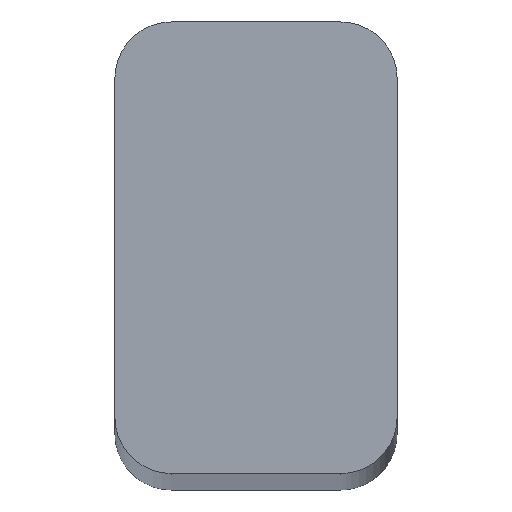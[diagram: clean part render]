
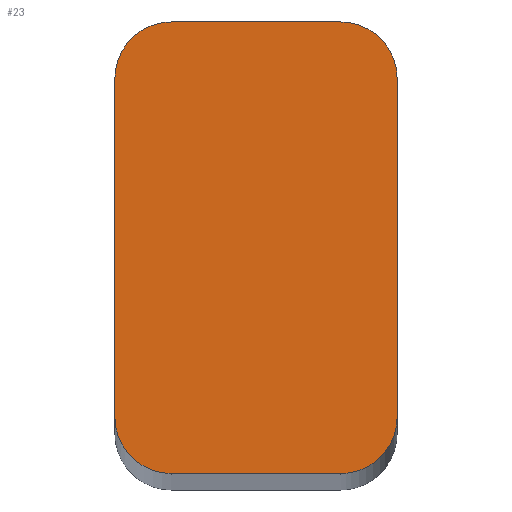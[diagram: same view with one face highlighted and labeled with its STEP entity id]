
A CAD part, top view. The second image highlights one B-rep face of the part: STEP entity #23.
In plain terms, the highlighted planar face has unit normal (0, 0, 1).
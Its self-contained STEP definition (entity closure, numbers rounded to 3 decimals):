
#23=ADVANCED_FACE('',(#33),#161,.T.);
#33=FACE_OUTER_BOUND('',#43,.T.);
#43=EDGE_LOOP('',(#77,#78,#79,#80,#81,#82,#83,#84));
#77=ORIENTED_EDGE('',*,*,#115,.F.);
#78=ORIENTED_EDGE('',*,*,#112,.F.);
#79=ORIENTED_EDGE('',*,*,#109,.F.);
#80=ORIENTED_EDGE('',*,*,#106,.F.);
#81=ORIENTED_EDGE('',*,*,#103,.F.);
#82=ORIENTED_EDGE('',*,*,#100,.F.);
#83=ORIENTED_EDGE('',*,*,#97,.F.);
#84=ORIENTED_EDGE('',*,*,#93,.F.);
#93=EDGE_CURVE('',#141,#142,#128,.T.);
#97=EDGE_CURVE('',#142,#145,#117,.T.);
#100=EDGE_CURVE('',#145,#147,#132,.T.);
#103=EDGE_CURVE('',#147,#149,#120,.T.);
#106=EDGE_CURVE('',#149,#151,#135,.T.);
#109=EDGE_CURVE('',#151,#153,#123,.T.);
#112=EDGE_CURVE('',#153,#155,#138,.T.);
#115=EDGE_CURVE('',#155,#141,#126,.T.);
#117=B_SPLINE_CURVE_WITH_KNOTS('',1,(#249,#250),.UNSPECIFIED.,.F.,.F.,(2,
2),(1.571,7.571),.UNSPECIFIED.);
#120=B_SPLINE_CURVE_WITH_KNOTS('',1,(#263,#264),.UNSPECIFIED.,.F.,.F.,(2,
2),(9.142,12.142),.UNSPECIFIED.);
#123=B_SPLINE_CURVE_WITH_KNOTS('',1,(#277,#278),.UNSPECIFIED.,.F.,.F.,(2,
2),(13.712,19.712),.UNSPECIFIED.);
#126=B_SPLINE_CURVE_WITH_KNOTS('',1,(#291,#292),.UNSPECIFIED.,.F.,.F.,(2,
2),(21.283,24.283),.UNSPECIFIED.);
#128=(
BOUNDED_CURVE()
B_SPLINE_CURVE(2,(#239,#240,#241),.UNSPECIFIED.,.F.,.F.)
B_SPLINE_CURVE_WITH_KNOTS((3,3),(0.,1.571),.UNSPECIFIED.)
CURVE()
GEOMETRIC_REPRESENTATION_ITEM()
RATIONAL_B_SPLINE_CURVE((1.,0.707,1.))
REPRESENTATION_ITEM('')
);
#132=(
BOUNDED_CURVE()
B_SPLINE_CURVE(2,(#255,#256,#257),.UNSPECIFIED.,.F.,.F.)
B_SPLINE_CURVE_WITH_KNOTS((3,3),(7.571,9.142),
 .UNSPECIFIED.)
CURVE()
GEOMETRIC_REPRESENTATION_ITEM()
RATIONAL_B_SPLINE_CURVE((1.,0.707,1.))
REPRESENTATION_ITEM('')
);
#135=(
BOUNDED_CURVE()
B_SPLINE_CURVE(2,(#269,#270,#271),.UNSPECIFIED.,.F.,.F.)
B_SPLINE_CURVE_WITH_KNOTS((3,3),(12.142,13.712),
 .UNSPECIFIED.)
CURVE()
GEOMETRIC_REPRESENTATION_ITEM()
RATIONAL_B_SPLINE_CURVE((1.,0.707,1.))
REPRESENTATION_ITEM('')
);
#138=(
BOUNDED_CURVE()
B_SPLINE_CURVE(2,(#283,#284,#285),.UNSPECIFIED.,.F.,.F.)
B_SPLINE_CURVE_WITH_KNOTS((3,3),(19.712,21.283),
 .UNSPECIFIED.)
CURVE()
GEOMETRIC_REPRESENTATION_ITEM()
RATIONAL_B_SPLINE_CURVE((1.,0.707,1.))
REPRESENTATION_ITEM('')
);
#141=VERTEX_POINT('',#223);
#142=VERTEX_POINT('',#224);
#145=VERTEX_POINT('',#227);
#147=VERTEX_POINT('',#229);
#149=VERTEX_POINT('',#231);
#151=VERTEX_POINT('',#233);
#153=VERTEX_POINT('',#235);
#155=VERTEX_POINT('',#237);
#161=PLANE('',#195);
#195=AXIS2_PLACEMENT_3D('',#221,#208,$);
#208=DIRECTION('',(0.,0.,1.));
#221=CARTESIAN_POINT('',(-3.125,199.078,-25.));
#223=CARTESIAN_POINT('',(-1.5,190.078,-25.));
#224=CARTESIAN_POINT('',(-2.5,191.078,-25.));
#227=CARTESIAN_POINT('',(-2.5,197.078,-25.));
#229=CARTESIAN_POINT('',(-1.5,198.078,-25.));
#231=CARTESIAN_POINT('',(1.5,198.078,-25.));
#233=CARTESIAN_POINT('',(2.5,197.078,-25.));
#235=CARTESIAN_POINT('',(2.5,191.078,-25.));
#237=CARTESIAN_POINT('',(1.5,190.078,-25.));
#239=CARTESIAN_POINT('',(-1.5,190.078,-25.));
#240=CARTESIAN_POINT('',(-2.5,190.078,-25.));
#241=CARTESIAN_POINT('',(-2.5,191.078,-25.));
#249=CARTESIAN_POINT('',(-2.5,191.078,-25.));
#250=CARTESIAN_POINT('',(-2.5,197.078,-25.));
#255=CARTESIAN_POINT('',(-2.5,197.078,-25.));
#256=CARTESIAN_POINT('',(-2.5,198.078,-25.));
#257=CARTESIAN_POINT('',(-1.5,198.078,-25.));
#263=CARTESIAN_POINT('',(-1.5,198.078,-25.));
#264=CARTESIAN_POINT('',(1.5,198.078,-25.));
#269=CARTESIAN_POINT('',(1.5,198.078,-25.));
#270=CARTESIAN_POINT('',(2.5,198.078,-25.));
#271=CARTESIAN_POINT('',(2.5,197.078,-25.));
#277=CARTESIAN_POINT('',(2.5,197.078,-25.));
#278=CARTESIAN_POINT('',(2.5,191.078,-25.));
#283=CARTESIAN_POINT('',(2.5,191.078,-25.));
#284=CARTESIAN_POINT('',(2.5,190.078,-25.));
#285=CARTESIAN_POINT('',(1.5,190.078,-25.));
#291=CARTESIAN_POINT('',(1.5,190.078,-25.));
#292=CARTESIAN_POINT('',(-1.5,190.078,-25.));
